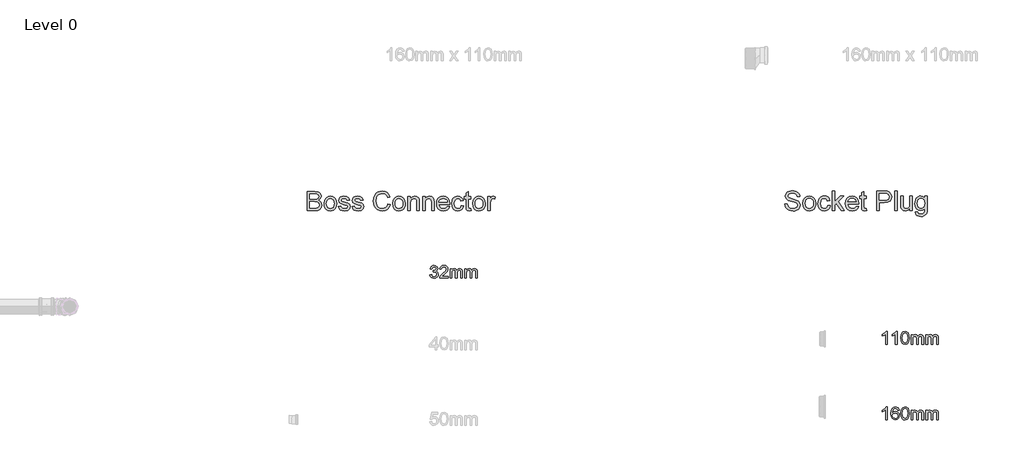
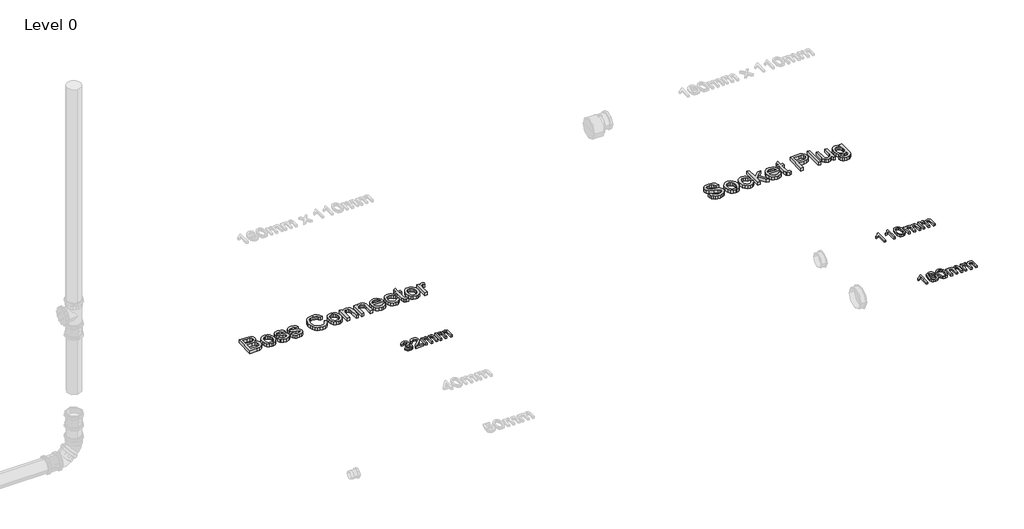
# One storey, part 3 of 15: 5 proxies.
"""IFC4 building model written with IfcOpenShell, lengths in millimetres."""

from ifc_helpers import new_model, si_unit, origin, origin_with_axes, place, context, project, spatial, polyline, outline, extrude, element, save

model = new_model("IFC4")

# Units and contexts
model_context = context("Model", 3, world=origin())
ifc_project = project(units=[si_unit("LENGTHUNIT", "METRE", prefix="MILLI")], contexts=[model_context])

# Site, building, storey
site = spatial("IfcSite", under=ifc_project)
building = spatial("IfcBuilding", under=site)
storey = spatial("IfcBuildingStorey", under=building, Name="Level 0", Elevation=0.0)

# Proxies
placement = place(None, origin())
element("IfcBuildingElementProxy", 1, Name="100mm Arial", ObjectType="100mm Arial", at=placement, inside=storey, context=model_context, shape_type="SweptSolid", body=[
    extrude(outline(polyline([(-20800.1908572, 3212.804251), (-20787.8831649, 3214.3427125), (-20781.0922995, 3201.3859817), (-20768.3879726, 3197.4196356), (-20759.9504726, 3198.7838183), (-20753.4360495, 3202.8763663), (-20747.8831649, 3216.3859817), (-20753.3879726, 3229.1143471), (-20767.3783572, 3234.1504048), (-20776.0081649, 3232.804251), (-20774.6379726, 3245.1119433), (-20772.6668188, 3244.9677125), (-20758.7004726, 3248.5013663), (-20754.0490303, 3252.9845394), (-20752.4985495, 3259.366751), (-20756.9937418, 3268.9941548), (-20768.5802803, 3272.804251), (-20780.3110495, 3268.9580971), (-20786.3447034, 3257.4196356), (-20798.6523957, 3258.9580971), (-20795.0285976, 3270.0097798), (-20788.5802803, 3278.2609817), (-20779.7581649, 3283.3992029), (-20769.0129726, 3285.1119433), (-20754.1692226, 3281.7345394), (-20743.7846072, 3272.5037702), (-20740.1908572, 3260.0879048), (-20743.6043188, 3248.741751), (-20753.7004726, 3240.5927125), (-20740.2870111, 3232.179251), (-20735.5754726, 3216.1696356), (-20737.9312418, 3204.1744433), (-20744.9985495, 3194.1504048), (-20755.6656168, 3187.3715587), (-20768.8206649, 3185.1119433), (-20780.7197034, 3187.0410298), (-20790.4072034, 3192.8282894), (-20797.1439822, 3201.6804529), (-20800.1908572, 3212.804251)])), origin_with_axes(), (0.0, 0.0, 1.0), 15.0),
    extrude(outline(polyline([(-20661.7293188, 3198.9580971), (-20661.7293188, 3186.6504048), (-20726.3447034, 3186.6504048), (-20725.022588, 3195.1359817), (-20717.5466264, 3208.2008856), (-20702.1379726, 3222.4677125), (-20680.8879726, 3242.9725202), (-20675.5754726, 3256.9148279), (-20680.5874918, 3268.2008856), (-20693.6764341, 3272.804251), (-20707.3182611, 3268.3090587), (-20712.4985495, 3255.881174), (-20724.8062418, 3257.4196356), (-20721.8224678, 3269.3246837), (-20715.3711457, 3278.0205971), (-20705.7888139, 3283.3391067), (-20693.4120111, 3285.1119433), (-20680.9450639, 3283.1407894), (-20671.3807611, 3277.2273279), (-20665.2960255, 3268.3931933), (-20663.2677803, 3257.6600202), (-20665.4552803, 3245.9893471), (-20672.7269149, 3233.9220394), (-20690.3591264, 3217.0590587), (-20704.5177803, 3205.2201163), (-20710.0706649, 3198.9580971), (-20661.7293188, 3198.9580971)])), origin_with_axes(), (0.0, 0.0, 1.0), 15.0),
    extrude(outline(polyline([(-20646.3447034, 3186.6504048), (-20646.3447034, 3258.9580971), (-20634.0370111, 3258.9580971), (-20634.0370111, 3247.0590587), (-20625.5754726, 3256.8066548), (-20613.5322034, 3260.4965587), (-20601.2004726, 3256.7345394), (-20594.4216264, 3246.193674), (-20584.8182611, 3256.9208375), (-20572.6908572, 3260.4965587), (-20563.4390543, 3259.0091788), (-20556.5971072, 3254.5470394), (-20552.3693428, 3246.9899481), (-20550.960088, 3236.2177125), (-20550.960088, 3186.6504048), (-20563.2677803, 3186.6504048), (-20563.2677803, 3230.929251), (-20564.4096072, 3241.2056933), (-20568.5442226, 3246.2657894), (-20575.5754726, 3248.1888663), (-20587.678838, 3243.2609817), (-20592.4985495, 3227.4677125), (-20592.4985495, 3186.6504048), (-20604.8062418, 3186.6504048), (-20604.8062418, 3232.2994433), (-20607.6547995, 3244.2225202), (-20616.9937418, 3248.1888663), (-20626.1043188, 3245.5446356), (-20632.1620111, 3237.804251), (-20634.0370111, 3223.116751), (-20634.0370111, 3186.6504048), (-20646.3447034, 3186.6504048)])), origin_with_axes(), (0.0, 0.0, 1.0), 15.0),
    extrude(outline(polyline([(-20532.4985495, 3186.6504048), (-20532.4985495, 3258.9580971), (-20520.1908572, 3258.9580971), (-20520.1908572, 3247.0590587), (-20511.7293188, 3256.8066548), (-20499.6860495, 3260.4965587), (-20487.3543188, 3256.7345394), (-20480.5754726, 3246.193674), (-20470.9721072, 3256.9208375), (-20458.8447034, 3260.4965587), (-20449.5929005, 3259.0091788), (-20442.7509534, 3254.5470394), (-20438.5231889, 3246.9899481), (-20437.1139341, 3236.2177125), (-20437.1139341, 3186.6504048), (-20449.4216264, 3186.6504048), (-20449.4216264, 3230.929251), (-20450.5634534, 3241.2056933), (-20454.6980688, 3246.2657894), (-20461.7293188, 3248.1888663), (-20473.8326841, 3243.2609817), (-20478.6523957, 3227.4677125), (-20478.6523957, 3186.6504048), (-20490.960088, 3186.6504048), (-20490.960088, 3232.2994433), (-20493.8086457, 3244.2225202), (-20503.147588, 3248.1888663), (-20512.2581649, 3245.5446356), (-20518.3158572, 3237.804251), (-20520.1908572, 3223.116751), (-20520.1908572, 3186.6504048), (-20532.4985495, 3186.6504048)])), origin_with_axes(), (0.0, 0.0, 1.0), 15.0),
])
element("IfcBuildingElementProxy", 2, Name="100mm Arial", ObjectType="100mm Arial", at=placement, inside=storey, context=model_context, shape_type="SweptSolid", body=[
    extrude(outline(polyline([(-17291.7293188, 2679.7032019), (-17304.0370111, 2679.7032019), (-17304.0370111, 2756.4339711), (-17315.6956649, 2748.1286827), (-17328.6523957, 2741.9147404), (-17328.6523957, 2753.5493557), (-17310.6115303, 2765.0637788), (-17299.6620111, 2778.1647404), (-17291.7293188, 2778.1647404), (-17291.7293188, 2679.7032019)])), origin_with_axes(), (0.0, 0.0, 1.0), 15.0),
    extrude(outline(polyline([(-17216.3447034, 2679.7032019), (-17228.6523957, 2679.7032019), (-17228.6523957, 2756.4339711), (-17240.3110495, 2748.1286827), (-17253.2677803, 2741.9147404), (-17253.2677803, 2753.5493557), (-17235.2269149, 2765.0637788), (-17224.2773957, 2778.1647404), (-17216.3447034, 2778.1647404), (-17216.3447034, 2679.7032019)])), origin_with_axes(), (0.0, 0.0, 1.0), 15.0),
    extrude(outline(polyline([(-17187.1139341, 2728.1407019), (-17183.4961457, 2756.4700288), (-17172.7509534, 2772.8041634), (-17154.8062418, 2778.1647404), (-17140.4312418, 2774.9916634), (-17130.5033572, 2765.8450288), (-17124.7341264, 2751.2777211), (-17122.4985495, 2728.1407019), (-17126.0802803, 2699.9315673), (-17136.7894149, 2683.561375), (-17154.8062418, 2678.1647404), (-17167.5947034, 2680.5084904), (-17177.3062418, 2687.5397404), (-17184.6620111, 2704.1923846), (-17187.1139341, 2728.1407019)]), holes=[polyline([(-17174.8062418, 2728.1647404), (-17173.3639341, 2708.8047644), (-17169.0370111, 2697.5998365), (-17162.5947034, 2692.2542836), (-17154.8062418, 2690.4724327), (-17147.0177803, 2692.2602932), (-17140.5754726, 2697.623875), (-17136.2485495, 2708.8348125), (-17134.8062418, 2728.1647404), (-17136.2004726, 2747.0890192), (-17140.3831649, 2758.3810865), (-17146.8134534, 2763.9880577), (-17154.9504726, 2765.857048), (-17162.6547995, 2764.2104134), (-17168.8447034, 2759.2705096), (-17173.3158572, 2747.2753173), (-17174.8062418, 2728.1647404)])]), origin_with_axes(), (0.0, 0.0, 1.0), 15.0),
    extrude(outline(polyline([(-17108.6523957, 2679.7032019), (-17108.6523957, 2752.0108942), (-17096.3447034, 2752.0108942), (-17096.3447034, 2740.1118557), (-17087.8831649, 2749.8594519), (-17075.8398957, 2753.5493557), (-17063.5081649, 2749.7873365), (-17056.7293188, 2739.2464711), (-17047.1259534, 2749.9736346), (-17034.9985495, 2753.5493557), (-17025.7467466, 2752.0619759), (-17018.9047995, 2747.5998365), (-17014.6770351, 2740.0427452), (-17013.2677803, 2729.2705096), (-17013.2677803, 2679.7032019), (-17025.5754726, 2679.7032019), (-17025.5754726, 2723.982048), (-17026.7172995, 2734.2584904), (-17030.8519149, 2739.3185865), (-17037.8831649, 2741.2416634), (-17049.9865303, 2736.3137788), (-17054.8062418, 2720.5205096), (-17054.8062418, 2679.7032019), (-17067.1139341, 2679.7032019), (-17067.1139341, 2725.3522404), (-17069.9624918, 2737.2753173), (-17079.3014341, 2741.2416634), (-17088.4120111, 2738.5974327), (-17094.4697034, 2730.857048), (-17096.3447034, 2716.169548), (-17096.3447034, 2679.7032019), (-17108.6523957, 2679.7032019)])), origin_with_axes(), (0.0, 0.0, 1.0), 15.0),
    extrude(outline(polyline([(-16994.8062418, 2679.7032019), (-16994.8062418, 2752.0108942), (-16982.4985495, 2752.0108942), (-16982.4985495, 2740.1118557), (-16974.0370111, 2749.8594519), (-16961.9937418, 2753.5493557), (-16949.6620111, 2749.7873365), (-16942.8831649, 2739.2464711), (-16933.2797995, 2749.9736346), (-16921.1523957, 2753.5493557), (-16911.9005928, 2752.0619759), (-16905.0586457, 2747.5998365), (-16900.8308813, 2740.0427452), (-16899.4216264, 2729.2705096), (-16899.4216264, 2679.7032019), (-16911.7293188, 2679.7032019), (-16911.7293188, 2723.982048), (-16912.8711457, 2734.2584904), (-16917.0057611, 2739.3185865), (-16924.0370111, 2741.2416634), (-16936.1403764, 2736.3137788), (-16940.960088, 2720.5205096), (-16940.960088, 2679.7032019), (-16953.2677803, 2679.7032019), (-16953.2677803, 2725.3522404), (-16956.116338, 2737.2753173), (-16965.4552803, 2741.2416634), (-16974.5658572, 2738.5974327), (-16980.6235495, 2730.857048), (-16982.4985495, 2716.169548), (-16982.4985495, 2679.7032019), (-16994.8062418, 2679.7032019)])), origin_with_axes(), (0.0, 0.0, 1.0), 15.0),
])
element("IfcBuildingElementProxy", 3, Name="100mm Arial", ObjectType="100mm Arial", at=placement, inside=storey, context=model_context, shape_type="SweptSolid", body=[
    extrude(outline(polyline([(-17291.7293188, 2099.7032019), (-17304.0370111, 2099.7032019), (-17304.0370111, 2176.4339711), (-17315.6956649, 2168.1286827), (-17328.6523957, 2161.9147404), (-17328.6523957, 2173.5493557), (-17310.6115303, 2185.0637788), (-17299.6620111, 2198.1647404), (-17291.7293188, 2198.1647404), (-17291.7293188, 2099.7032019)])), origin_with_axes(), (0.0, 0.0, 1.0), 15.0),
    extrude(outline(polyline([(-17199.4216264, 2172.0108942), (-17211.7293188, 2170.4724327), (-17216.3927803, 2180.7368557), (-17228.7245111, 2185.857048), (-17239.8302803, 2182.8762788), (-17248.2317226, 2171.686375), (-17251.7293188, 2149.7512788), (-17240.8759534, 2159.5709904), (-17227.4264341, 2162.780125), (-17216.0562418, 2160.5866154), (-17206.5129726, 2154.0060865), (-17200.0406168, 2143.952), (-17197.8831649, 2131.3378173), (-17201.9456649, 2114.3546442), (-17213.1235495, 2102.3354134), (-17229.2533572, 2098.1647404), (-17243.2166986, 2100.9291634), (-17254.3374918, 2109.2224327), (-17261.6121313, 2123.8618557), (-17264.0370111, 2145.6647404), (-17261.3447034, 2170.1779615), (-17253.2677803, 2186.9387788), (-17242.2401361, 2195.35825), (-17227.9552803, 2198.1647404), (-17217.1560014, 2196.4279615), (-17208.5081649, 2191.217625), (-17202.4504726, 2182.9423846), (-17199.4216264, 2172.0108942)]), holes=[polyline([(-17251.7293188, 2131.530125), (-17248.8807611, 2120.8690673), (-17241.3086457, 2113.1286827), (-17230.2148957, 2110.4724327), (-17222.0929005, 2111.8486346), (-17215.7076841, 2115.9772404), (-17211.5700639, 2122.467625), (-17210.1908572, 2130.9291634), (-17211.5520351, 2139.0511586), (-17215.6355688, 2145.2440673), (-17230.7197034, 2150.4724327), (-17245.6115303, 2145.2440673), (-17250.1998716, 2139.201399), (-17251.7293188, 2131.530125)])]), origin_with_axes(), (0.0, 0.0, 1.0), 15.0),
    extrude(outline(polyline([(-17187.1139341, 2148.1407019), (-17183.4961457, 2176.4700288), (-17172.7509534, 2192.8041634), (-17154.8062418, 2198.1647404), (-17140.4312418, 2194.9916634), (-17130.5033572, 2185.8450288), (-17124.7341264, 2171.2777211), (-17122.4985495, 2148.1407019), (-17126.0802803, 2119.9315673), (-17136.7894149, 2103.561375), (-17154.8062418, 2098.1647404), (-17167.5947034, 2100.5084904), (-17177.3062418, 2107.5397404), (-17184.6620111, 2124.1923846), (-17187.1139341, 2148.1407019)]), holes=[polyline([(-17174.8062418, 2148.1647404), (-17173.3639341, 2128.8047644), (-17169.0370111, 2117.5998365), (-17162.5947034, 2112.2542836), (-17154.8062418, 2110.4724327), (-17147.0177803, 2112.2602932), (-17140.5754726, 2117.623875), (-17136.2485495, 2128.8348125), (-17134.8062418, 2148.1647404), (-17136.2004726, 2167.0890192), (-17140.3831649, 2178.3810865), (-17146.8134534, 2183.9880577), (-17154.9504726, 2185.857048), (-17162.6547995, 2184.2104134), (-17168.8447034, 2179.2705096), (-17173.3158572, 2167.2753173), (-17174.8062418, 2148.1647404)])]), origin_with_axes(), (0.0, 0.0, 1.0), 15.0),
    extrude(outline(polyline([(-17108.6523957, 2099.7032019), (-17108.6523957, 2172.0108942), (-17096.3447034, 2172.0108942), (-17096.3447034, 2160.1118557), (-17087.8831649, 2169.8594519), (-17075.8398957, 2173.5493557), (-17063.5081649, 2169.7873365), (-17056.7293188, 2159.2464711), (-17047.1259534, 2169.9736346), (-17034.9985495, 2173.5493557), (-17025.7467466, 2172.0619759), (-17018.9047995, 2167.5998365), (-17014.6770351, 2160.0427452), (-17013.2677803, 2149.2705096), (-17013.2677803, 2099.7032019), (-17025.5754726, 2099.7032019), (-17025.5754726, 2143.982048), (-17026.7172995, 2154.2584904), (-17030.8519149, 2159.3185865), (-17037.8831649, 2161.2416634), (-17049.9865303, 2156.3137788), (-17054.8062418, 2140.5205096), (-17054.8062418, 2099.7032019), (-17067.1139341, 2099.7032019), (-17067.1139341, 2145.3522404), (-17069.9624918, 2157.2753173), (-17079.3014341, 2161.2416634), (-17088.4120111, 2158.5974327), (-17094.4697034, 2150.857048), (-17096.3447034, 2136.169548), (-17096.3447034, 2099.7032019), (-17108.6523957, 2099.7032019)])), origin_with_axes(), (0.0, 0.0, 1.0), 15.0),
    extrude(outline(polyline([(-16994.8062418, 2099.7032019), (-16994.8062418, 2172.0108942), (-16982.4985495, 2172.0108942), (-16982.4985495, 2160.1118557), (-16974.0370111, 2169.8594519), (-16961.9937418, 2173.5493557), (-16949.6620111, 2169.7873365), (-16942.8831649, 2159.2464711), (-16933.2797995, 2169.9736346), (-16921.1523957, 2173.5493557), (-16911.9005928, 2172.0619759), (-16905.0586457, 2167.5998365), (-16900.8308813, 2160.0427452), (-16899.4216264, 2149.2705096), (-16899.4216264, 2099.7032019), (-16911.7293188, 2099.7032019), (-16911.7293188, 2143.982048), (-16912.8711457, 2154.2584904), (-16917.0057611, 2159.3185865), (-16924.0370111, 2161.2416634), (-16936.1403764, 2156.3137788), (-16940.960088, 2140.5205096), (-16940.960088, 2099.7032019), (-16953.2677803, 2099.7032019), (-16953.2677803, 2145.3522404), (-16956.116338, 2157.2753173), (-16965.4552803, 2161.2416634), (-16974.5658572, 2158.5974327), (-16980.6235495, 2150.857048), (-16982.4985495, 2136.169548), (-16982.4985495, 2099.7032019), (-16994.8062418, 2099.7032019)])), origin_with_axes(), (0.0, 0.0, 1.0), 15.0),
])
element("IfcBuildingElementProxy", 4, Name="150mm Arial", ObjectType="150mm Arial", at=placement, inside=storey, context=model_context, shape_type="SweptSolid", body=[
    extrude(outline(polyline([(-21742.1433743, 3705.2145219), (-21742.1433743, 3852.9068296), (-21685.7852012, 3852.9068296), (-21658.1830377, 3848.5618777), (-21648.9071964, 3843.049558), (-21641.8849608, 3835.2025027), (-21635.9895281, 3816.3082719), (-21640.9474608, 3799.0546661), (-21655.929432, 3785.9837527), (-21645.468194, 3780.5210123), (-21637.7383262, 3772.2097142), (-21632.9651892, 3761.5997383), (-21631.3741435, 3749.2409642), (-21635.7190954, 3729.3912046), (-21646.4823166, 3715.2565892), (-21662.5460185, 3707.7565892), (-21686.2178935, 3705.2145219), (-21742.1433743, 3705.2145219)]), holes=[polyline([(-21723.6818358, 3723.6760604), (-21685.8212589, 3723.6760604), (-21672.1193358, 3724.3972142), (-21660.5267877, 3728.4176469), (-21652.8464993, 3736.6207719), (-21649.835682, 3749.0606758), (-21653.3693358, 3763.4116373), (-21664.8176531, 3771.9753392), (-21687.6241435, 3774.4452911), (-21723.6818358, 3774.4452911), (-21723.6818358, 3723.6760604)]), polyline([(-21723.6818358, 3792.9068296), (-21689.9678935, 3792.9068296), (-21670.2803935, 3794.4933681), (-21658.4354416, 3801.3263008), (-21654.4510666, 3813.3515411), (-21658.1650089, 3825.3948104), (-21668.8020281, 3832.5162046), (-21692.5279897, 3834.4452911), (-21723.6818358, 3834.4452911), (-21723.6818358, 3792.9068296)])]), origin_with_axes(), (0.0, 0.0, 1.0), 25.0),
    extrude(outline(polyline([(-21612.912605, 3759.4452911), (-21608.9192156, 3785.5961325), (-21596.9390473, 3803.9765411), (-21582.1373647, 3812.9819498), (-21564.4150089, 3815.9837527), (-21545.0204776, 3812.3284041), (-21529.5291916, 3801.3623585), (-21519.374444, 3783.9510003), (-21515.9895281, 3760.9597142), (-21517.4859223, 3742.3088729), (-21521.975105, 3728.1111565), (-21529.3263671, 3717.4786445), (-21539.4089993, 3709.5234161), (-21551.3846603, 3704.5609762), (-21564.4150089, 3702.9068296), (-21584.0439151, 3706.5486565), (-21599.5171723, 3717.4741373), (-21609.5637469, 3735.2505796), (-21612.912605, 3759.4452911)]), holes=[polyline([(-21594.4510666, 3759.4813488), (-21592.3146483, 3742.7731157), (-21585.9053935, 3730.86957), (-21576.2599608, 3723.7436686), (-21564.4150089, 3721.3683681), (-21552.6241435, 3723.7571902), (-21542.9967397, 3730.9236565), (-21536.5874848, 3742.9849546), (-21534.4510666, 3760.0582719), (-21536.6010065, 3776.2797262), (-21543.0508262, 3788.0210123), (-21552.6917517, 3795.1469137), (-21564.4150089, 3797.5222142), (-21576.2599608, 3795.1559282), (-21585.9053935, 3788.05707), (-21592.3146483, 3776.1805676), (-21594.4510666, 3759.4813488)])]), origin_with_axes(), (0.0, 0.0, 1.0), 25.0),
    extrude(outline(polyline([(-21502.1433743, 3737.5222142), (-21483.6818358, 3739.8299065), (-21480.7701772, 3731.9332719), (-21475.1361627, 3726.1279835), (-21455.5568358, 3721.3683681), (-21436.7347204, 3725.7313488), (-21430.6049127, 3735.9717335), (-21436.7707781, 3744.2650027), (-21455.773182, 3749.5294258), (-21483.5736627, 3758.5618777), (-21495.7070762, 3769.1087527), (-21499.835682, 3784.0005796), (-21496.5183743, 3797.7565892), (-21487.4678935, 3808.2674065), (-21475.7311147, 3813.7301469), (-21459.8477012, 3815.9837527), (-21437.3837589, 3812.3599546), (-21423.1049127, 3802.5522623), (-21416.7587589, 3785.9837527), (-21435.2202973, 3783.6760604), (-21442.1614031, 3793.8623585), (-21458.4053935, 3797.5222142), (-21476.0736627, 3794.0246181), (-21481.3741435, 3785.8755796), (-21479.1746243, 3780.5029835), (-21472.287605, 3776.4284642), (-21456.3861627, 3772.4981758), (-21429.288807, 3763.8082719), (-21416.7046723, 3753.9645219), (-21412.1433743, 3737.9188488), (-21417.4979416, 3720.2505796), (-21432.9486627, 3707.43207), (-21455.8092397, 3702.9068296), (-21474.4240233, 3705.08832), (-21488.0087589, 3711.6327911), (-21497.0772685, 3722.4681277), (-21502.1433743, 3737.5222142)])), origin_with_axes(), (0.0, 0.0, 1.0), 25.0),
    extrude(outline(polyline([(-21398.2972204, 3737.5222142), (-21379.835682, 3739.8299065), (-21376.9240233, 3731.9332719), (-21371.2900089, 3726.1279835), (-21351.710682, 3721.3683681), (-21332.8885666, 3725.7313488), (-21326.7587589, 3735.9717335), (-21332.9246243, 3744.2650027), (-21351.9270281, 3749.5294258), (-21379.7275089, 3758.5618777), (-21391.8609223, 3769.1087527), (-21395.9895281, 3784.0005796), (-21392.6722204, 3797.7565892), (-21383.6217397, 3808.2674065), (-21371.8849608, 3813.7301469), (-21356.0015473, 3815.9837527), (-21333.537605, 3812.3599546), (-21319.2587589, 3802.5522623), (-21312.912605, 3785.9837527), (-21331.3741435, 3783.6760604), (-21338.3152493, 3793.8623585), (-21354.5592397, 3797.5222142), (-21372.2275089, 3794.0246181), (-21377.5279897, 3785.8755796), (-21375.3284704, 3780.5029835), (-21368.4414512, 3776.4284642), (-21352.5400089, 3772.4981758), (-21325.4426531, 3763.8082719), (-21312.8585185, 3753.9645219), (-21308.2972204, 3737.9188488), (-21313.6517877, 3720.2505796), (-21329.1025089, 3707.43207), (-21351.9630858, 3702.9068296), (-21370.5778695, 3705.08832), (-21384.162605, 3711.6327911), (-21393.2311147, 3722.4681277), (-21398.2972204, 3737.5222142)])), origin_with_axes(), (0.0, 0.0, 1.0), 25.0),
    extrude(outline(polyline([(-21123.6818358, 3757.7145219), (-21105.2202973, 3752.9549065), (-21113.7389272, 3731.4419859), (-21127.1073166, 3715.7253392), (-21144.6674127, 3706.111457), (-21165.7611627, 3702.9068296), (-21187.1749247, 3705.3317094), (-21204.1806339, 3712.6063488), (-21217.2154897, 3724.478344), (-21226.7166916, 3740.6952911), (-21232.5174728, 3759.760796), (-21234.4510666, 3780.1784642), (-21232.265069, 3801.713921), (-21225.7070762, 3820.3106758), (-21215.1196363, 3835.3782839), (-21200.8452973, 3846.3263008), (-21183.9162108, 3852.9924666), (-21165.3645281, 3855.2145219), (-21145.1226411, 3852.338921), (-21128.3873647, 3843.7121181), (-21115.6815353, 3829.8659642), (-21107.5279897, 3811.3323104), (-21125.9895281, 3806.9332719), (-21132.3897685, 3820.3963128), (-21141.1337589, 3829.6315892), (-21152.3296723, 3834.9726349), (-21166.085682, 3836.7529835), (-21181.9420522, 3834.7788248), (-21194.9678935, 3828.8563488), (-21204.8522084, 3819.6075508), (-21211.2839993, 3807.6544258), (-21215.9895281, 3780.2145219), (-21210.4186147, 3748.4116373), (-21203.2972204, 3736.5351349), (-21193.0748647, 3728.0931277), (-21180.8197565, 3723.049558), (-21167.600105, 3721.3683681), (-21152.1899488, 3723.6580315), (-21139.3489031, 3730.5270219), (-21129.6538911, 3741.9032238), (-21123.6818358, 3757.7145219)])), origin_with_axes(), (0.0, 0.0, 1.0), 25.0),
    extrude(outline(polyline([(-21086.7587589, 3759.4452911), (-21082.7653695, 3785.5961325), (-21070.7852012, 3803.9765411), (-21055.9835185, 3812.9819498), (-21038.2611627, 3815.9837527), (-21018.8666315, 3812.3284041), (-21003.3753454, 3801.3623585), (-20993.2205978, 3783.9510003), (-20989.835682, 3760.9597142), (-20991.3320762, 3742.3088729), (-20995.8212589, 3728.1111565), (-21003.1725209, 3717.4786445), (-21013.2551531, 3709.5234161), (-21025.2308142, 3704.5609762), (-21038.2611627, 3702.9068296), (-21057.890069, 3706.5486565), (-21073.3633262, 3717.4741373), (-21083.4099007, 3735.2505796), (-21086.7587589, 3759.4452911)]), holes=[polyline([(-21068.2972204, 3759.4813488), (-21066.1608022, 3742.7731157), (-21059.7515473, 3730.86957), (-21050.1061147, 3723.7436686), (-21038.2611627, 3721.3683681), (-21026.4702973, 3723.7571902), (-21016.8428935, 3730.9236565), (-21010.4336387, 3742.9849546), (-21008.2972204, 3760.0582719), (-21010.4471603, 3776.2797262), (-21016.89698, 3788.0210123), (-21026.5379055, 3795.1469137), (-21038.2611627, 3797.5222142), (-21050.1061147, 3795.1559282), (-21059.7515473, 3788.05707), (-21066.1608022, 3776.1805676), (-21068.2972204, 3759.4813488)])]), origin_with_axes(), (0.0, 0.0, 1.0), 25.0),
    extrude(outline(polyline([(-20969.0664512, 3705.2145219), (-20969.0664512, 3813.6760604), (-20950.6049127, 3813.6760604), (-20950.6049127, 3798.5318296), (-20936.4883262, 3811.6207719), (-20917.2154897, 3815.9837527), (-20899.7815954, 3812.4681277), (-20887.882557, 3803.2373585), (-20882.3477012, 3789.6616373), (-20881.3741435, 3771.8130796), (-20881.3741435, 3705.2145219), (-20899.835682, 3705.2145219), (-20899.835682, 3769.3250988), (-20901.9630858, 3785.6592335), (-20909.4811147, 3794.2950508), (-20922.1553935, 3797.5222142), (-20932.968194, 3795.7103152), (-20942.1854416, 3790.2746181), (-20948.5000449, 3779.7728152), (-20950.6049127, 3762.7625988), (-20950.6049127, 3705.2145219), (-20969.0664512, 3705.2145219)])), origin_with_axes(), (0.0, 0.0, 1.0), 25.0),
    extrude(outline(polyline([(-20855.9895281, 3705.2145219), (-20855.9895281, 3813.6760604), (-20837.5279897, 3813.6760604), (-20837.5279897, 3798.5318296), (-20823.4114031, 3811.6207719), (-20804.1385666, 3815.9837527), (-20786.7046723, 3812.4681277), (-20774.8056339, 3803.2373585), (-20769.2707781, 3789.6616373), (-20768.2972204, 3771.8130796), (-20768.2972204, 3705.2145219), (-20786.7587589, 3705.2145219), (-20786.7587589, 3769.3250988), (-20788.8861627, 3785.6592335), (-20796.4041916, 3794.2950508), (-20809.0784704, 3797.5222142), (-20819.8912709, 3795.7103152), (-20829.1085185, 3790.2746181), (-20835.4231219, 3779.7728152), (-20837.5279897, 3762.7625988), (-20837.5279897, 3705.2145219), (-20855.9895281, 3705.2145219)])), origin_with_axes(), (0.0, 0.0, 1.0), 25.0),
    extrude(outline(polyline([(-20666.975105, 3737.5222142), (-20648.8741435, 3735.2145219), (-20655.3960786, 3721.5756998), (-20665.80323, 3711.3803873), (-20679.8612228, 3705.025219), (-20697.335682, 3702.9068296), (-20718.9973406, 3706.5621782), (-20735.6650089, 3717.5282238), (-20746.2930137, 3735.0928272), (-20749.835682, 3758.5438488), (-20746.256956, 3782.7836325), (-20735.5207781, 3800.9116373), (-20719.0784704, 3812.2157238), (-20698.381355, 3815.9837527), (-20678.3287709, 3812.2247383), (-20662.3056339, 3800.947695), (-20651.7993238, 3782.8557479), (-20648.2972204, 3758.6520219), (-20648.4053935, 3753.6760604), (-20731.3741435, 3753.6760604), (-20728.1785305, 3739.8569498), (-20720.7551531, 3729.697695), (-20710.0415113, 3723.4506998), (-20696.975105, 3721.3683681), (-20678.8741435, 3725.2265411), (-20666.975105, 3737.5222142)]), holes=[polyline([(-20731.3741435, 3772.1375988), (-20666.7587589, 3772.1375988), (-20669.2557541, 3781.8912046), (-20674.1505858, 3788.8683681), (-20684.913807, 3795.3587527), (-20698.4534704, 3797.5222142), (-20710.8978815, 3795.7959522), (-20721.1878454, 3790.6171661), (-20728.3407901, 3782.5447503), (-20731.3741435, 3772.1375988)])]), origin_with_axes(), (0.0, 0.0, 1.0), 25.0),
    extrude(outline(polyline([(-20560.6049127, 3744.4452911), (-20542.1433743, 3742.1375988), (-20547.2906098, 3725.7178272), (-20556.9630858, 3713.3094738), (-20570.2503454, 3705.5074907), (-20586.241932, 3702.9068296), (-20605.8798526, 3706.5351349), (-20621.2359223, 3717.4200508), (-20631.1472805, 3735.0838128), (-20634.4510666, 3759.0486565), (-20628.8080377, 3789.7157238), (-20621.6866435, 3801.2136205), (-20611.6085185, 3809.4212527), (-20599.5517276, 3814.3431277), (-20586.4943358, 3815.9837527), (-20570.8948767, 3813.7301469), (-20558.4234223, 3806.9693296), (-20549.4766074, 3796.0618777), (-20544.4510666, 3781.3683681), (-20562.912605, 3779.0606758), (-20571.476307, 3792.8888008), (-20586.350105, 3797.5222142), (-20598.280694, 3795.2415652), (-20607.7503454, 3788.3996181), (-20613.9297324, 3776.6267815), (-20615.9895281, 3759.5534642), (-20613.9748046, 3742.2502791), (-20607.9306339, 3730.4368777), (-20598.6322565, 3723.6354955), (-20586.8549127, 3721.3683681), (-20577.2951171, 3722.7836325), (-20569.4570762, 3727.0294258), (-20563.7554536, 3734.213921), (-20560.6049127, 3744.4452911)])), origin_with_axes(), (0.0, 0.0, 1.0), 25.0),
    extrude(outline(polyline([(-20486.7587589, 3720.6111565), (-20484.4510666, 3704.6736565), (-20498.2611627, 3702.9068296), (-20513.7299127, 3705.9717335), (-20521.4462589, 3714.0125988), (-20523.6818358, 3734.9621181), (-20523.6818358, 3795.2145219), (-20537.5279897, 3795.2145219), (-20537.5279897, 3813.6760604), (-20523.6818358, 3813.6760604), (-20523.6818358, 3840.0342335), (-20505.2202973, 3850.8875988), (-20505.2202973, 3813.6760604), (-20486.7587589, 3813.6760604), (-20486.7587589, 3795.2145219), (-20505.2202973, 3795.2145219), (-20505.2202973, 3735.5029835), (-20504.2467397, 3725.9837527), (-20501.0916916, 3722.6123585), (-20494.7996243, 3721.3683681), (-20486.7587589, 3720.6111565)])), origin_with_axes(), (0.0, 0.0, 1.0), 25.0),
    extrude(outline(polyline([(-20472.912605, 3759.4452911), (-20468.9192156, 3785.5961325), (-20456.9390473, 3803.9765411), (-20442.1373647, 3812.9819498), (-20424.4150089, 3815.9837527), (-20405.0204776, 3812.3284041), (-20389.5291916, 3801.3623585), (-20379.374444, 3783.9510003), (-20375.9895281, 3760.9597142), (-20377.4859223, 3742.3088729), (-20381.975105, 3728.1111565), (-20389.3263671, 3717.4786445), (-20399.4089993, 3709.5234161), (-20411.3846603, 3704.5609762), (-20424.4150089, 3702.9068296), (-20444.0439151, 3706.5486565), (-20459.5171723, 3717.4741373), (-20469.5637469, 3735.2505796), (-20472.912605, 3759.4452911)]), holes=[polyline([(-20454.4510666, 3759.4813488), (-20452.3146483, 3742.7731157), (-20445.9053935, 3730.86957), (-20436.2599608, 3723.7436686), (-20424.4150089, 3721.3683681), (-20412.6241435, 3723.7571902), (-20402.9967397, 3730.9236565), (-20396.5874848, 3742.9849546), (-20394.4510666, 3760.0582719), (-20396.6010065, 3776.2797262), (-20403.0508262, 3788.0210123), (-20412.6917517, 3795.1469137), (-20424.4150089, 3797.5222142), (-20436.2599608, 3795.1559282), (-20445.9053935, 3788.05707), (-20452.3146483, 3776.1805676), (-20454.4510666, 3759.4813488)])]), origin_with_axes(), (0.0, 0.0, 1.0), 25.0),
    extrude(outline(polyline([(-20355.2202973, 3705.2145219), (-20355.2202973, 3813.6760604), (-20339.0664512, 3813.6760604), (-20339.0664512, 3797.6303873), (-20327.600105, 3812.4140411), (-20316.0616435, 3815.9837527), (-20297.5279897, 3810.2866373), (-20303.693855, 3793.7361565), (-20316.6746243, 3797.5222142), (-20327.1133262, 3793.8803873), (-20333.7659704, 3783.7842335), (-20336.7587589, 3762.2217335), (-20336.7587589, 3705.2145219), (-20355.2202973, 3705.2145219)])), origin_with_axes(), (0.0, 0.0, 1.0), 25.0),
])
element("IfcBuildingElementProxy", 5, Name="150mm Arial", ObjectType="150mm Arial", at=placement, inside=storey, context=model_context, shape_type="SweptSolid", body=[
    extrude(outline(polyline([(-18077.6520824, 3757.0123068), (-18058.8165242, 3757.0123068), (-18052.7464713, 3738.1583546), (-18037.9208269, 3726.2389779), (-18015.3328724, 3721.6956353), (-17995.6511857, 3725.135332), (-17982.9408627, 3734.5898992), (-17978.7654021, 3747.2266458), (-17981.8923991, 3758.9804755), (-17994.6946925, 3767.5337319), (-18022.1202952, 3774.7258249), (-18051.6428253, 3784.0148453), (-18067.6640862, 3798.0311493), (-18072.9431929, 3816.7563429), (-18071.3107165, 3827.7882042), (-18066.4132874, 3838.0751045), (-18058.3796644, 3846.7939078), (-18047.338606, 3853.1214781), (-18019.4163626, 3858.2534319), (-17989.617921, 3852.8823548), (-17978.195185, 3846.2512818), (-17969.7522932, 3837.1002172), (-17964.4088072, 3825.999378), (-17962.2842887, 3813.5189813), (-17981.1198469, 3813.5189813), (-17984.5779376, 3824.7577763), (-17991.7884247, 3832.8695742), (-18003.0548108, 3837.7807989), (-18018.6805986, 3839.4178738), (-18034.6742683, 3837.799193), (-18045.6463488, 3832.9431506), (-18051.9923132, 3825.7970429), (-18054.1076347, 3817.3081658), (-18052.6085156, 3810.0700876), (-18048.1111582, 3804.248355), (-18017.3562234, 3793.72693), (-17984.0261146, 3784.2723627), (-17973.2885589, 3777.4389546), (-17965.7975618, 3769.0052599), (-17961.3967734, 3759.063249), (-17959.9298439, 3747.7048924), (-17961.6175026, 3736.0936169), (-17966.6804786, 3725.1721202), (-17974.9118382, 3715.7727352), (-17986.1046479, 3708.727795), (-17999.5645304, 3704.3270066), (-18014.5971084, 3702.8600771), (-18033.050989, 3704.4419697), (-18048.2399169, 3709.1876475), (-18060.338636, 3717.1155045), (-18069.5218903, 3728.2439348), (-18075.4171993, 3741.8003863), (-18077.6520824, 3757.0123068)])), origin_with_axes(), (0.0, 0.0, 1.0), 25.0),
    extrude(outline(polyline([(-17938.739841, 3760.543974), (-17934.6655479, 3787.2246157), (-17922.4426686, 3805.9774004), (-17907.3411127, 3815.1652532), (-17889.2597127, 3818.2278708), (-17869.4722599, 3814.4984671), (-17853.6671296, 3803.3102559), (-17843.3066529, 3785.5461541), (-17839.8531607, 3762.0890784), (-17841.379871, 3743.0603822), (-17845.9600018, 3728.5750286), (-17853.460196, 3717.7271083), (-17863.7470963, 3709.6107118), (-17875.9653771, 3704.5477358), (-17889.2597127, 3702.8600771), (-17909.2862888, 3706.5756853), (-17925.0730249, 3717.7225098), (-17935.323137, 3735.8590921), (-17938.739841, 3760.543974)]), holes=[polyline([(-17919.9042829, 3760.5807622), (-17917.724582, 3743.5340302), (-17911.1854796, 3731.3893259), (-17901.3446362, 3724.1190579), (-17889.2597127, 3721.6956353), (-17877.2299714, 3724.1328535), (-17867.4075222, 3731.4445082), (-17860.8684197, 3743.7501609), (-17858.6887189, 3761.1693734), (-17860.8822153, 3777.7194646), (-17867.4627045, 3789.6986221), (-17877.2989493, 3796.96889), (-17889.2597127, 3799.3923127), (-17901.3446362, 3796.9780871), (-17911.1854796, 3789.7354103), (-17917.724582, 3777.6182971), (-17919.9042829, 3760.5807622)])]), origin_with_axes(), (0.0, 0.0, 1.0), 25.0),
    extrude(outline(polyline([(-17748.0298147, 3745.240083), (-17729.1942566, 3742.8856382), (-17734.445772, 3726.1332119), (-17744.3142066, 3713.4734727), (-17757.8706581, 3705.513426), (-17774.1862246, 3702.8600771), (-17794.2219977, 3706.5618897), (-17809.8891722, 3717.6673275), (-17820.0013285, 3735.6889467), (-17823.3720473, 3760.1393038), (-17821.932709, 3776.9009272), (-17817.6146941, 3791.4276675), (-17810.3490247, 3803.1585046), (-17800.0667229, 3811.5324185), (-17787.7656687, 3816.5540078), (-17774.443742, 3818.2278708), (-17758.5282472, 3815.9286084), (-17745.8041286, 3809.030821), (-17736.6760566, 3797.9023906), (-17731.5487013, 3782.9111993), (-17750.3842595, 3780.5567545), (-17759.1214569, 3794.665029), (-17774.2965892, 3799.3923127), (-17786.4688847, 3797.0654591), (-17796.1303856, 3790.0848982), (-17802.4349633, 3778.0735511), (-17804.5364892, 3760.6543386), (-17802.4809485, 3743.0006013), (-17796.3143266, 3730.9478675), (-17786.8275696, 3724.0086933), (-17774.811624, 3721.6956353), (-17765.0581526, 3723.1395721), (-17757.0613177, 3727.4713826), (-17751.2441837, 3734.8014314), (-17748.0298147, 3745.240083)])), origin_with_axes(), (0.0, 0.0, 1.0), 25.0),
    extrude(outline(polyline([(-17712.7131432, 3705.2145219), (-17712.7131432, 3855.8989871), (-17693.877585, 3855.8989871), (-17693.877585, 3774.92816), (-17651.644732, 3815.8734261), (-17625.5986867, 3815.8734261), (-17668.3465746, 3774.4131252), (-17623.244242, 3705.2145219), (-17645.2435853, 3705.2145219), (-17681.8478438, 3761.3165262), (-17693.877585, 3749.6546669), (-17693.877585, 3705.2145219), (-17712.7131432, 3705.2145219)])), origin_with_axes(), (0.0, 0.0, 1.0), 25.0),
    extrude(outline(polyline([(-17529.2871804, 3738.1767487), (-17510.8195042, 3735.8223039), (-17517.4735698, 3721.9071674), (-17528.0915639, 3711.505304), (-17542.4343632, 3705.0213839), (-17560.2628444, 3702.8600771), (-17582.3633552, 3706.5894809), (-17599.3687005, 3717.7776921), (-17610.2120223, 3735.6981437), (-17613.8264629, 3759.624269), (-17610.1752341, 3784.3551361), (-17599.2215477, 3802.8504034), (-17582.4461287, 3814.383504), (-17561.3297022, 3818.2278708), (-17540.8708647, 3814.392701), (-17524.5231085, 3802.8871916), (-17513.8039469, 3784.4287125), (-17510.230893, 3759.7346336), (-17510.3412576, 3754.6578621), (-17594.9909047, 3754.6578621), (-17591.7305505, 3740.5587846), (-17584.15678, 3730.1937094), (-17573.2260862, 3723.8201538), (-17559.8949624, 3721.6956353), (-17541.4272862, 3725.6319727), (-17529.2871804, 3738.1767487)]), holes=[polyline([(-17594.9909047, 3773.4934202), (-17529.0664512, 3773.4934202), (-17531.614034, 3783.4446282), (-17536.6080321, 3790.5631448), (-17547.5893096, 3797.1850207), (-17561.4032786, 3799.3923127), (-17574.0998059, 3797.6310776), (-17584.5982384, 3792.3473725), (-17591.8960974, 3784.1114143), (-17594.9909047, 3773.4934202)])]), origin_with_axes(), (0.0, 0.0, 1.0), 25.0),
    extrude(outline(polyline([(-17451.3697738, 3720.9230831), (-17449.015329, 3704.6626989), (-17463.1052095, 3702.8600771), (-17478.887347, 3705.9870741), (-17486.7600217, 3714.1908426), (-17489.0408901, 3735.5647865), (-17489.0408901, 3797.0378679), (-17503.1675587, 3797.0378679), (-17503.1675587, 3815.8734261), (-17489.0408901, 3815.8734261), (-17489.0408901, 3842.7655999), (-17470.205332, 3853.838848), (-17470.205332, 3815.8734261), (-17451.3697738, 3815.8734261), (-17451.3697738, 3797.0378679), (-17470.205332, 3797.0378679), (-17470.205332, 3736.1166095), (-17469.2120506, 3726.4045248), (-17465.9930831, 3722.9648282), (-17459.5735423, 3721.6956353), (-17451.3697738, 3720.9230831)])), origin_with_axes(), (0.0, 0.0, 1.0), 25.0),
    extrude(outline(polyline([(-17371.3186517, 3705.2145219), (-17371.3186517, 3855.8989871), (-17315.4741648, 3855.8989871), (-17292.9597867, 3854.4642474), (-17274.6576574, 3847.4193072), (-17262.7934631, 3832.8511801), (-17258.3053027, 3812.3049707), (-17261.3357307, 3794.5454674), (-17270.4270145, 3779.7474141), (-17287.4277612, 3769.759418), (-17314.1865778, 3766.4300859), (-17352.4830935, 3766.4300859), (-17352.4830935, 3705.2145219), (-17371.3186517, 3705.2145219)]), holes=[polyline([(-17352.4830935, 3785.2656441), (-17313.0829318, 3785.2656441), (-17296.3810892, 3786.9946894), (-17285.3446294, 3792.1818256), (-17279.191803, 3800.5051557), (-17277.1408609, 3811.6427831), (-17281.9785091, 3827.2409797), (-17294.6888321, 3835.775842), (-17313.5243902, 3837.063429), (-17352.4830935, 3837.063429), (-17352.4830935, 3785.2656441)])]), origin_with_axes(), (0.0, 0.0, 1.0), 25.0),
    extrude(outline(polyline([(-17234.760855, 3705.2145219), (-17234.760855, 3855.8989871), (-17215.9252969, 3855.8989871), (-17215.9252969, 3705.2145219), (-17234.760855, 3705.2145219)])), origin_with_axes(), (0.0, 0.0, 1.0), 25.0),
    extrude(outline(polyline([(-17117.0386166, 3705.2145219), (-17117.0386166, 3724.2340211), (-17131.7906846, 3708.2035631), (-17151.0309129, 3702.8600771), (-17168.744431, 3706.6124735), (-17180.9581133, 3716.0302526), (-17186.5683137, 3729.8994038), (-17187.6719597, 3747.4105868), (-17187.6719597, 3815.8734261), (-17168.8364015, 3815.8734261), (-17168.8364015, 3756.2765428), (-17167.6959673, 3737.0731027), (-17160.2463569, 3725.7975195), (-17146.2116588, 3721.6956353), (-17130.4847035, 3725.88949), (-17120.0920372, 3737.312226), (-17117.0386166, 3758.2998938), (-17117.0386166, 3815.8734261), (-17098.2030584, 3815.8734261), (-17098.2030584, 3705.2145219), (-17117.0386166, 3705.2145219)])), origin_with_axes(), (0.0, 0.0, 1.0), 25.0),
    extrude(outline(polyline([(-17077.0130555, 3695.7967428), (-17058.1774974, 3693.4422981), (-17052.0706562, 3683.5094842), (-17033.7869211, 3679.3156295), (-17014.5099045, 3684.0613072), (-17005.3128547, 3697.3786354), (-17004.0252677, 3719.3411905), (-17017.2874136, 3708.7461891), (-17033.4558273, 3705.2145219), (-17052.8753981, 3709.3256032), (-17067.3561531, 3721.6588471), (-17076.3646635, 3739.7402472), (-17079.3675003, 3761.095797), (-17073.9780291, 3790.2872333), (-17067.3837443, 3802.1376321), (-17058.3798325, 3810.9438073), (-17047.2743947, 3816.406855), (-17034.3755323, 3818.2278708), (-17017.5725221, 3814.1075925), (-17004.0252677, 3801.7467575), (-17004.0252677, 3815.8734261), (-16985.1897095, 3815.8734261), (-16985.1897095, 3720.3344719), (-16986.4772965, 3698.2753478), (-16990.3400575, 3683.7486075), (-16996.994123, 3674.1146978), (-17006.6556239, 3666.7340652), (-17019.113028, 3662.0435698), (-17034.1548031, 3660.4800713), (-17051.6797816, 3662.6827648), (-17065.479955, 3669.2908451), (-17074.3321155, 3680.3227064), (-17077.0130555, 3695.7967428)]), holes=[polyline([(-17060.5319421, 3762.383384), (-17058.5223867, 3745.1067258), (-17052.4937205, 3733.2287359), (-17043.4300279, 3726.344744), (-17032.3153931, 3724.0500801), (-17021.2835318, 3726.3309484), (-17012.1738539, 3733.1735536), (-17006.0624142, 3744.8997921), (-17004.0252677, 3761.831561), (-17006.122195, 3778.160923), (-17012.4129772, 3789.9193513), (-17021.6560123, 3797.0240723), (-17032.6096987, 3799.3923127), (-17043.3656485, 3797.0608605), (-17052.3833559, 3790.0665041), (-17058.4947956, 3778.4828198), (-17060.5319421, 3762.383384)])]), origin_with_axes(), (0.0, 0.0, 1.0), 25.0),
])

save(model, "model.ifc")
